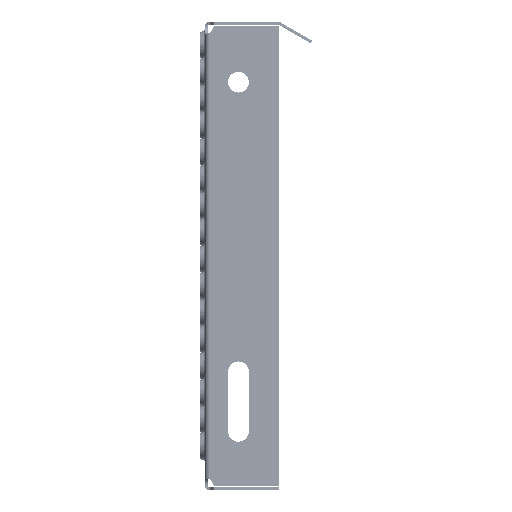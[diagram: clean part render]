
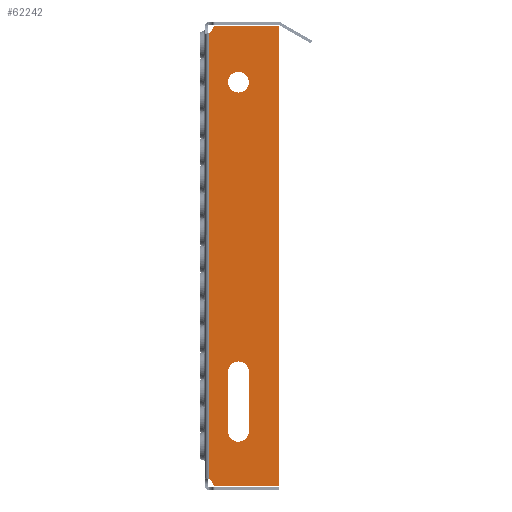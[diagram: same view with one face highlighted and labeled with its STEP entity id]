
A CAD part, left-side view. The second image highlights one B-rep face of the part: STEP entity #62242.
In plain terms, the highlighted planar face has unit normal (-1, 0, 0).
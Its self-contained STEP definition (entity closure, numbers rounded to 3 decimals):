
#538 = CARTESIAN_POINT ( 'NONE',  ( -350., -29.5, -130.5 ) ) ;
#1365 = DIRECTION ( 'NONE',  ( -1., 0., 0. ) ) ;
#2365 = CIRCLE ( 'NONE', #27642, 1. ) ;
#3331 = ORIENTED_EDGE ( 'NONE', *, *, #44723, .T. ) ;
#3551 = DIRECTION ( 'NONE',  ( -1., 0., 0. ) ) ;
#4555 = EDGE_CURVE ( 'NONE', #49772, #17757, #35369, .T. ) ;
#4757 = ORIENTED_EDGE ( 'NONE', *, *, #40471, .T. ) ;
#4996 = VERTEX_POINT ( 'NONE', #32776 ) ;
#5001 = DIRECTION ( 'NONE',  ( 0., 0., -1. ) ) ;
#6568 = EDGE_LOOP ( 'NONE', ( #12361 ) ) ;
#7145 = EDGE_LOOP ( 'NONE', ( #23683, #38933, #30516, #18180 ) ) ;
#7471 = CARTESIAN_POINT ( 'NONE',  ( -350., -3., 137.67 ) ) ;
#7833 = DIRECTION ( 'NONE',  ( 0., 0., 1. ) ) ;
#7980 = VERTEX_POINT ( 'NONE', #67603 ) ;
#9238 = DIRECTION ( 'NONE',  ( -1., 0., 0. ) ) ;
#9823 = CARTESIAN_POINT ( 'NONE',  ( -350., -6.416, -167. ) ) ;
#9970 = EDGE_CURVE ( 'NONE', #4996, #50472, #33887, .T. ) ;
#10086 = CIRCLE ( 'NONE', #10476, 7. ) ;
#10476 = AXIS2_PLACEMENT_3D ( 'NONE', #12490, #49284, #17784 ) ;
#11164 = FACE_OUTER_BOUND ( 'NONE', #44375, .T. ) ;
#11352 = EDGE_CURVE ( 'NONE', #31872, #31872, #44399, .T. ) ;
#11781 = VECTOR ( 'NONE', #18456, 1000. ) ;
#12280 = DIRECTION ( 'NONE',  ( -1., 0., 0. ) ) ;
#12361 = ORIENTED_EDGE ( 'NONE', *, *, #11352, .F. ) ;
#12490 = CARTESIAN_POINT ( 'NONE',  ( -350., -22.5, -90.5 ) ) ;
#13040 = EDGE_CURVE ( 'NONE', #26193, #32438, #27737, .T. ) ;
#13269 = AXIS2_PLACEMENT_3D ( 'NONE', #40932, #20031, #56830 ) ;
#14502 = FACE_BOUND ( 'NONE', #7145, .T. ) ;
#15926 = AXIS2_PLACEMENT_3D ( 'NONE', #40729, #9238, #46040 ) ;
#15956 = EDGE_CURVE ( 'NONE', #17757, #25443, #39763, .T. ) ;
#16823 = LINE ( 'NONE', #39337, #29174 ) ;
#17116 = VERTEX_POINT ( 'NONE', #27315 ) ;
#17566 = CARTESIAN_POINT ( 'NONE',  ( -350., -50., 142. ) ) ;
#17743 = VECTOR ( 'NONE', #32121, 1000. ) ;
#17757 = VERTEX_POINT ( 'NONE', #538 ) ;
#17784 = DIRECTION ( 'NONE',  ( 0., 0., -1. ) ) ;
#18180 = ORIENTED_EDGE ( 'NONE', *, *, #4555, .F. ) ;
#18456 = DIRECTION ( 'NONE',  ( 0., 0., 1. ) ) ;
#18567 = DIRECTION ( 'NONE',  ( 0., 0., 1. ) ) ;
#20031 = DIRECTION ( 'NONE',  ( 1., 0., 0. ) ) ;
#21162 = AXIS2_PLACEMENT_3D ( 'NONE', #30489, #67282, #35741 ) ;
#23683 = ORIENTED_EDGE ( 'NONE', *, *, #37068, .F. ) ;
#24203 = CARTESIAN_POINT ( 'NONE',  ( -350., -50., 142. ) ) ;
#25443 = VERTEX_POINT ( 'NONE', #65489 ) ;
#26193 = VERTEX_POINT ( 'NONE', #39462 ) ;
#26598 = AXIS2_PLACEMENT_3D ( 'NONE', #43764, #12280, #49067 ) ;
#27315 = CARTESIAN_POINT ( 'NONE',  ( -350., -6.416, 142. ) ) ;
#27385 = LINE ( 'NONE', #65481, #66045 ) ;
#27642 = AXIS2_PLACEMENT_3D ( 'NONE', #32908, #1365, #38175 ) ;
#27737 = CIRCLE ( 'NONE', #26598, 1. ) ;
#29174 = VECTOR ( 'NONE', #7833, 1000. ) ;
#30394 = PLANE ( 'NONE',  #13269 ) ;
#30489 = CARTESIAN_POINT ( 'NONE',  ( -350., -0.5, -167. ) ) ;
#30516 = ORIENTED_EDGE ( 'NONE', *, *, #15956, .F. ) ;
#30745 = EDGE_CURVE ( 'NONE', #17116, #4996, #2365, .T. ) ;
#31872 = VERTEX_POINT ( 'NONE', #45478 ) ;
#32121 = DIRECTION ( 'NONE',  ( 0., 0., -1. ) ) ;
#32438 = VERTEX_POINT ( 'NONE', #41374 ) ;
#32776 = CARTESIAN_POINT ( 'NONE',  ( -350., -5.43, 141.167 ) ) ;
#32908 = CARTESIAN_POINT ( 'NONE',  ( -350., -6.416, 141. ) ) ;
#33005 = CIRCLE ( 'NONE', #21162, 5. ) ;
#33887 = CIRCLE ( 'NONE', #34717, 5. ) ;
#34090 = CARTESIAN_POINT ( 'NONE',  ( -350., -29.5, -90.5 ) ) ;
#34717 = AXIS2_PLACEMENT_3D ( 'NONE', #68052, #36525, #5001 ) ;
#35017 = LINE ( 'NONE', #47743, #17743 ) ;
#35068 = CARTESIAN_POINT ( 'NONE',  ( -350., -22.5, -130.5 ) ) ;
#35369 = CIRCLE ( 'NONE', #66596, 7. ) ;
#35741 = DIRECTION ( 'NONE',  ( 0., 0., -1. ) ) ;
#36039 = EDGE_CURVE ( 'NONE', #63813, #17116, #53954, .T. ) ;
#36525 = DIRECTION ( 'NONE',  ( 1., 0., 0. ) ) ;
#36884 = EDGE_CURVE ( 'NONE', #32438, #59713, #67977, .T. ) ;
#37068 = EDGE_CURVE ( 'NONE', #59885, #49772, #35017, .T. ) ;
#38175 = DIRECTION ( 'NONE',  ( 0., 0., 1. ) ) ;
#38790 = EDGE_CURVE ( 'NONE', #25443, #59885, #10086, .T. ) ;
#38933 = ORIENTED_EDGE ( 'NONE', *, *, #38790, .F. ) ;
#39135 = FACE_BOUND ( 'NONE', #6568, .T. ) ;
#39337 = CARTESIAN_POINT ( 'NONE',  ( -350., -3., -172.916 ) ) ;
#39462 = CARTESIAN_POINT ( 'NONE',  ( -350., -5.43, -166.167 ) ) ;
#39763 = LINE ( 'NONE', #34090, #11781 ) ;
#39825 = CARTESIAN_POINT ( 'NONE',  ( -350., -50., -167. ) ) ;
#39976 = VECTOR ( 'NONE', #66283, 1000. ) ;
#39986 = VECTOR ( 'NONE', #57207, 1000. ) ;
#40360 = DIRECTION ( 'NONE',  ( 0., 0., -1. ) ) ;
#40471 = EDGE_CURVE ( 'NONE', #7980, #26193, #33005, .T. ) ;
#40729 = CARTESIAN_POINT ( 'NONE',  ( -350., -22.5, 104.5 ) ) ;
#40932 = CARTESIAN_POINT ( 'NONE',  ( -350., 0.5, -172.916 ) ) ;
#41374 = CARTESIAN_POINT ( 'NONE',  ( -350., -6.416, -167. ) ) ;
#43726 = EDGE_CURVE ( 'NONE', #7980, #50472, #16823, .T. ) ;
#43764 = CARTESIAN_POINT ( 'NONE',  ( -350., -6.416, -166. ) ) ;
#44375 = EDGE_LOOP ( 'NONE', ( #55928, #4757, #67318, #66856, #3331, #46318, #48350, #58604 ) ) ;
#44399 = CIRCLE ( 'NONE', #15926, 7. ) ;
#44723 = EDGE_CURVE ( 'NONE', #59713, #63813, #27385, .T. ) ;
#45478 = CARTESIAN_POINT ( 'NONE',  ( -350., -22.5, 97.5 ) ) ;
#46040 = DIRECTION ( 'NONE',  ( 0., 0., -1. ) ) ;
#46318 = ORIENTED_EDGE ( 'NONE', *, *, #36039, .T. ) ;
#47743 = CARTESIAN_POINT ( 'NONE',  ( -350., -15.5, -90.5 ) ) ;
#48350 = ORIENTED_EDGE ( 'NONE', *, *, #30745, .T. ) ;
#48715 = CARTESIAN_POINT ( 'NONE',  ( -350., -15.5, -130.5 ) ) ;
#49067 = DIRECTION ( 'NONE',  ( 0., 0., -1. ) ) ;
#49284 = DIRECTION ( 'NONE',  ( -1., 0., 0. ) ) ;
#49772 = VERTEX_POINT ( 'NONE', #48715 ) ;
#50472 = VERTEX_POINT ( 'NONE', #7471 ) ;
#53954 = LINE ( 'NONE', #24203, #39976 ) ;
#55928 = ORIENTED_EDGE ( 'NONE', *, *, #43726, .F. ) ;
#56830 = DIRECTION ( 'NONE',  ( 0., 0., -1. ) ) ;
#57207 = DIRECTION ( 'NONE',  ( 0., -1., 0. ) ) ;
#58604 = ORIENTED_EDGE ( 'NONE', *, *, #9970, .T. ) ;
#59713 = VERTEX_POINT ( 'NONE', #39825 ) ;
#59885 = VERTEX_POINT ( 'NONE', #62584 ) ;
#62242 = ADVANCED_FACE ( 'NONE', ( #11164, #39135, #14502 ), #30394, .F. ) ;
#62584 = CARTESIAN_POINT ( 'NONE',  ( -350., -15.5, -90.5 ) ) ;
#63813 = VERTEX_POINT ( 'NONE', #17566 ) ;
#65481 = CARTESIAN_POINT ( 'NONE',  ( -350., -50., -167. ) ) ;
#65489 = CARTESIAN_POINT ( 'NONE',  ( -350., -29.5, -90.5 ) ) ;
#66045 = VECTOR ( 'NONE', #18567, 1000. ) ;
#66283 = DIRECTION ( 'NONE',  ( 0., 1., 0. ) ) ;
#66596 = AXIS2_PLACEMENT_3D ( 'NONE', #35068, #3551, #40360 ) ;
#66856 = ORIENTED_EDGE ( 'NONE', *, *, #36884, .T. ) ;
#67282 = DIRECTION ( 'NONE',  ( 1., 0., 0. ) ) ;
#67318 = ORIENTED_EDGE ( 'NONE', *, *, #13040, .T. ) ;
#67603 = CARTESIAN_POINT ( 'NONE',  ( -350., -3., -162.67 ) ) ;
#67977 = LINE ( 'NONE', #9823, #39986 ) ;
#68052 = CARTESIAN_POINT ( 'NONE',  ( -350., -0.5, 142. ) ) ;
